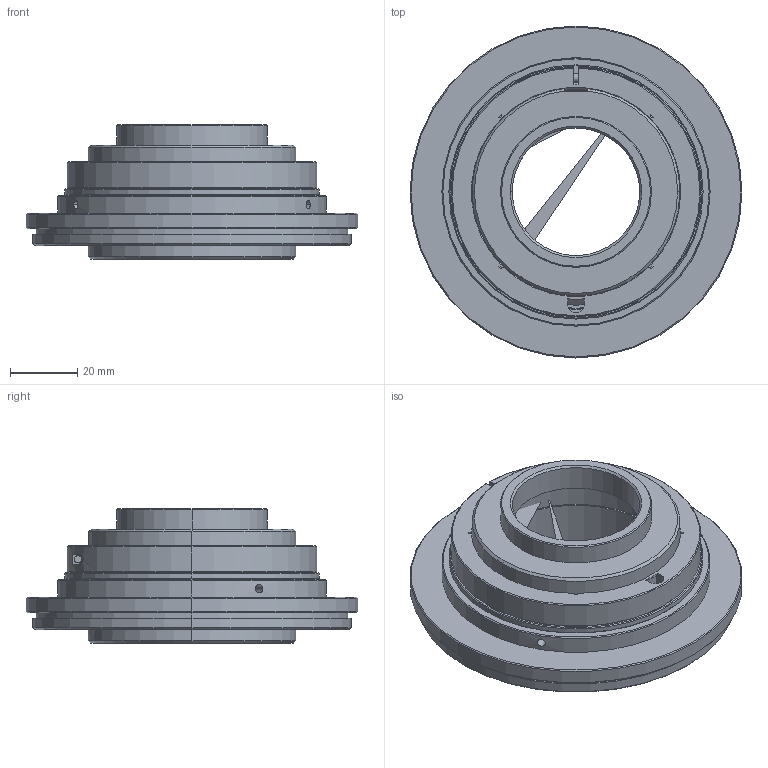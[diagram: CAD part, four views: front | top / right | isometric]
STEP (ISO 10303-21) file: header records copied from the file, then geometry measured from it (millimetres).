
FILE_DESCRIPTION (( 'STEP AP203' ), '1' );
FILE_NAME ('ML-TUBE-M95_A23440A0100101A-001.STEP', '2019-03-15T06:54:41', ( '' ), ( '' ), 'SwSTEP 2.0', 'SolidWorks 2014', '' );
FILE_SCHEMA (( 'CONFIG_CONTROL_DESIGN' ));
Length unit declared in the file: millimetre
Products named in the file (3): ML-TUBE-M95_A23440A0100101A-001; 01; 02
Assembly tree (2 placements, depth 2):
  ML-TUBE-M95_A23440A0100101A-001
    01
    02
Bounding box: 99 x 99 x 40 mm (x, y, z)
Volume: 63543.3 mm3; surface area: 41984 mm2
Topology: 2 solids, 2 shells, 320 faces, 803 edges, 514 vertices
Faces by surface type: plane 180, cylinder 76, cone 60, torus 4
Entity records: 10136 total; most frequent: CARTESIAN_POINT 2030, DIRECTION 1641, ORIENTED_EDGE 1602, EDGE_CURVE 801, AXIS2_PLACEMENT_3D 565, VERTEX_POINT 514, LINE 511, VECTOR 511
